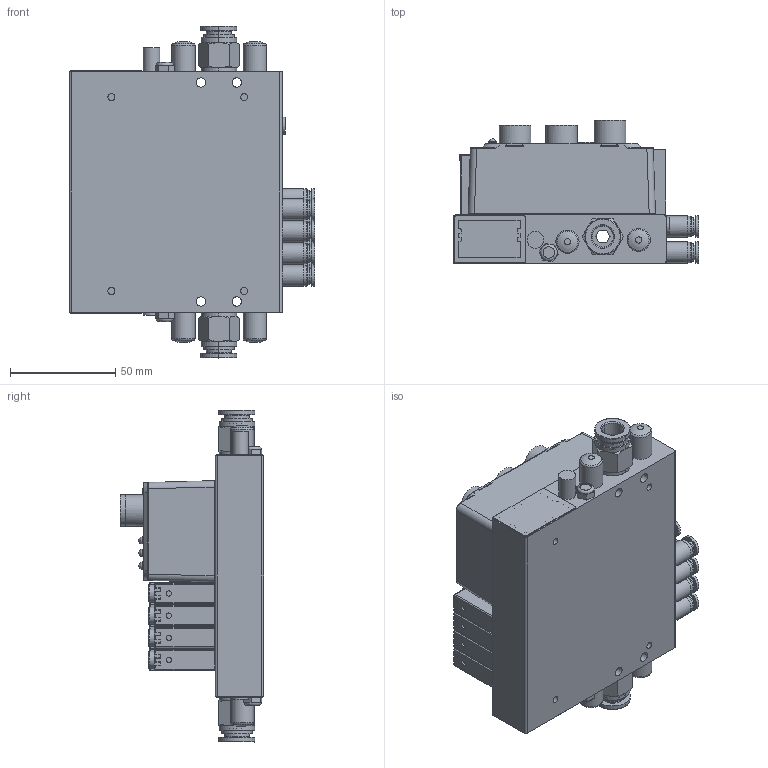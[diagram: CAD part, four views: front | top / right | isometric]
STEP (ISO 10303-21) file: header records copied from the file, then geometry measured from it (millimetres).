
FILE_DESCRIPTION(/* description */ (''),/* implementation_level */ '2;1');
FILE_NAME(/* name */ 'EV-XX-F1-4-X-XX-XX-A-X-C.stp',/* time_stamp */ '2025-10-13T14:11:46+08:00',/* author */ (''),/* organization */ (''),/* preprocessor_version */ 'ST-DEVELOPER v19.4',/* originating_system */ 'SIEMENS PLM Software NX2212.7001',/* authorisation */ '');
FILE_SCHEMA (('AUTOMOTIVE_DESIGN { 1 0 10303 214 3 1 1 1 }'));
Products named in the file (1): EV-PN-F1-H16-L-12-04-A-E-C_stp_objects
Bounding box: 116.5 x 68 x 157.6 mm (x, y, z)
Volume: 453933.3 mm3; surface area: 141107.9 mm2
Topology: 12 solids, 30 shells, 2416 faces, 5779 edges, 3576 vertices
Faces by surface type: plane 1003, cylinder 849, torus 240, cone 154, bspline 90, sphere 80
Full cylindrical faces by diameter (mm): 1 x5, 1.05 x5, 1.5 x4, 1.55 x8, 1.7 x8, 2.05 x4, 2.15 x2, 2.3 x4, 2.48 x4, 2.5 x3, 2.8 x4, 3.3 x4, 3.446 x6, 3.5 x11, 3.7 x1, 4 x16, 4.134 x5, 4.3 x4, 4.5 x28, 5.1 x8, 5.3 x8, 5.4 x2, 5.5 x2, 5.917 x1, 6 x4, 7 x8, 8 x9, 8.3 x8, 8.566 x6, 9 x1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
Entity records: 80977 total; most frequent: CARTESIAN_POINT 17862, DIRECTION 11644, ORIENTED_EDGE 10460, EDGE_CURVE 5230, AXIS2_PLACEMENT_3D 4542, VERTEX_POINT 3424, EDGE_LOOP 3080, LINE 2560
